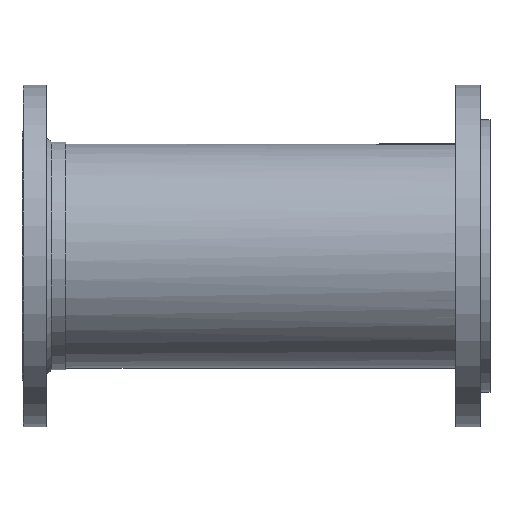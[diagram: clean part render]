
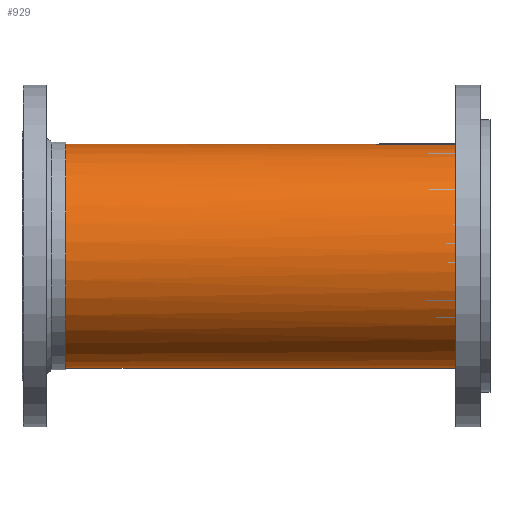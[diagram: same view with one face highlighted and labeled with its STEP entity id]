
A CAD part, left-side view. The second image highlights one B-rep face of the part: STEP entity #929.
In plain terms, the highlighted cylindrical face has radius 146.05 mm (diameter 292.1 mm), a full revolution.
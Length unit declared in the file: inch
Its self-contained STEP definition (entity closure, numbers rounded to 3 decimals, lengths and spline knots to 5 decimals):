
#28=FACE_BOUND('',#207,.T.);
#149=FACE_OUTER_BOUND('',#206,.T.);
#206=EDGE_LOOP('',(#651));
#207=EDGE_LOOP('',(#652));
#384=CIRCLE('',#989,5.75);
#385=CIRCLE('',#990,5.75);
#473=VERTEX_POINT('',#1430);
#474=VERTEX_POINT('',#1432);
#562=EDGE_CURVE('',#473,#473,#384,.T.);
#563=EDGE_CURVE('',#474,#474,#385,.T.);
#651=ORIENTED_EDGE('',*,*,#562,.F.);
#652=ORIENTED_EDGE('',*,*,#563,.F.);
#829=CYLINDRICAL_SURFACE('',#988,5.75);
#929=ADVANCED_FACE('',(#149,#28),#829,.T.);
#988=AXIS2_PLACEMENT_3D('',#1429,#1136,#1137);
#989=AXIS2_PLACEMENT_3D('',#1431,#1138,#1139);
#990=AXIS2_PLACEMENT_3D('',#1433,#1140,#1141);
#1136=DIRECTION('center_axis',(0.,-1.,0.));
#1137=DIRECTION('ref_axis',(0.285,0.,0.959));
#1138=DIRECTION('center_axis',(0.,-1.,0.));
#1139=DIRECTION('ref_axis',(-0.746,0.,0.666));
#1140=DIRECTION('center_axis',(0.,1.,0.));
#1141=DIRECTION('ref_axis',(0.747,0.,0.664));
#1429=CARTESIAN_POINT('Origin',(0.,22.75,0.));
#1430=CARTESIAN_POINT('',(4.2876,1.5,-3.83132));
#1431=CARTESIAN_POINT('Origin',(0.,1.5,0.));
#1432=CARTESIAN_POINT('',(-4.29723,21.75,-3.82052));
#1433=CARTESIAN_POINT('Origin',(0.,21.75,0.));
